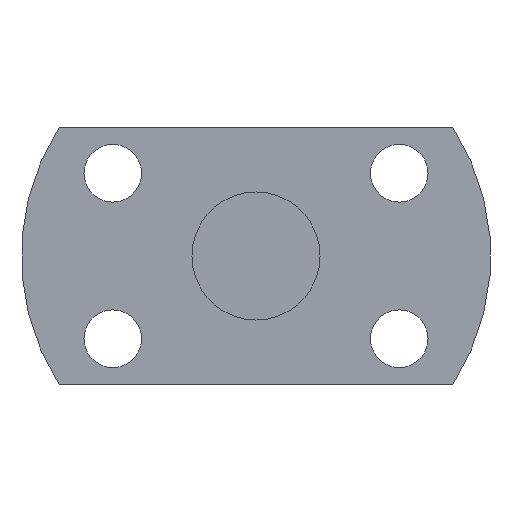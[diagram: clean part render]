
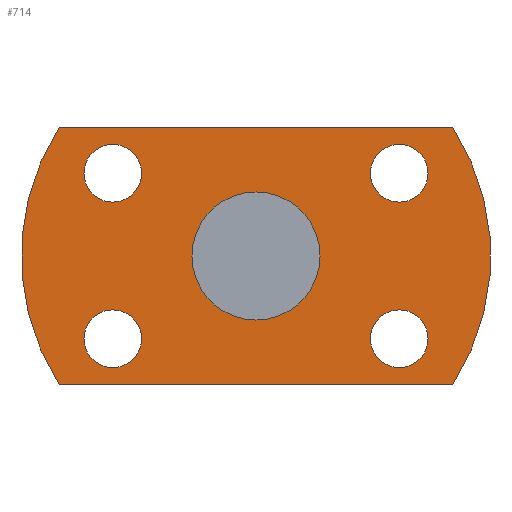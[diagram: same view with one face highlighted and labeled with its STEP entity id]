
A CAD part, left-side view. The second image highlights one B-rep face of the part: STEP entity #714.
In plain terms, the highlighted planar face has unit normal (-1, 0, 0).
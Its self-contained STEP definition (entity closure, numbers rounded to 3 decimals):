
#230=CARTESIAN_POINT('',(135.0,13.423,-5.05));
#231=VERTEX_POINT('',#230);
#232=CARTESIAN_POINT('',(135.0,13.423,-7.75));
#233=DIRECTION('',(1.0,0.0,0.0));
#234=DIRECTION('',(0.0,0.0,1.0));
#235=AXIS2_PLACEMENT_3D('',#232,#233,#234);
#236=CIRCLE('',#235,2.7);
#237=EDGE_CURVE('',#231,#231,#236,.T.);
#279=CARTESIAN_POINT('',(135.0,-13.423,10.45));
#280=VERTEX_POINT('',#279);
#281=CARTESIAN_POINT('',(135.0,-13.423,7.75));
#282=DIRECTION('',(1.0,0.0,0.0));
#283=DIRECTION('',(0.0,0.0,1.0));
#284=AXIS2_PLACEMENT_3D('',#281,#282,#283);
#285=CIRCLE('',#284,2.7);
#286=EDGE_CURVE('',#280,#280,#285,.T.);
#328=CARTESIAN_POINT('',(135.0,-13.423,-5.05));
#329=VERTEX_POINT('',#328);
#330=CARTESIAN_POINT('',(135.0,-13.423,-7.75));
#331=DIRECTION('',(1.0,0.0,0.0));
#332=DIRECTION('',(0.0,0.0,1.0));
#333=AXIS2_PLACEMENT_3D('',#330,#331,#332);
#334=CIRCLE('',#333,2.7);
#335=EDGE_CURVE('',#329,#329,#334,.T.);
#377=CARTESIAN_POINT('',(135.0,13.423,10.45));
#378=VERTEX_POINT('',#377);
#379=CARTESIAN_POINT('',(135.0,13.423,7.75));
#380=DIRECTION('',(1.0,0.0,0.0));
#381=DIRECTION('',(0.0,0.0,1.0));
#382=AXIS2_PLACEMENT_3D('',#379,#380,#381);
#383=CIRCLE('',#382,2.7);
#384=EDGE_CURVE('',#378,#378,#383,.T.);
#548=CARTESIAN_POINT('',(135.0,-18.439,-12.));
#549=VERTEX_POINT('',#548);
#556=CARTESIAN_POINT('',(135.0,18.439,-12.));
#557=VERTEX_POINT('',#556);
#558=CARTESIAN_POINT('',(135.0,18.439,-12.));
#559=DIRECTION('',(0.0,-1.0,0.0));
#560=VECTOR('',#559,36.878);
#561=LINE('',#558,#560);
#562=EDGE_CURVE('',#557,#549,#561,.T.);
#579=CARTESIAN_POINT('',(135.0,-18.439,12.));
#580=VERTEX_POINT('',#579);
#587=CARTESIAN_POINT('',(135.0,0.0,0.0));
#588=DIRECTION('',(-1.0,0.0,0.0));
#589=DIRECTION('',(0.0,0.0,1.0));
#590=AXIS2_PLACEMENT_3D('',#587,#588,#589);
#591=CIRCLE('',#590,22.0);
#592=EDGE_CURVE('',#549,#580,#591,.T.);
#604=CARTESIAN_POINT('',(135.0,18.439,12.));
#605=VERTEX_POINT('',#604);
#612=CARTESIAN_POINT('',(135.0,-18.439,12.));
#613=DIRECTION('',(0.0,1.0,0.0));
#614=VECTOR('',#613,36.878);
#615=LINE('',#612,#614);
#616=EDGE_CURVE('',#580,#605,#615,.T.);
#629=CARTESIAN_POINT('',(135.0,0.0,0.0));
#630=DIRECTION('',(-1.0,0.0,0.0));
#631=DIRECTION('',(0.0,0.0,1.0));
#632=AXIS2_PLACEMENT_3D('',#629,#630,#631);
#633=CIRCLE('',#632,22.0);
#634=EDGE_CURVE('',#605,#557,#633,.T.);
#680=CARTESIAN_POINT('',(135.0,0.0,8.5));
#681=DIRECTION('',(-1.0,0.0,0.0));
#682=DIRECTION('',(0.0,0.0,1.0));
#683=AXIS2_PLACEMENT_3D('',#680,#681,#682);
#684=PLANE('',#683);
#685=ORIENTED_EDGE('',*,*,#634,.T.);
#686=ORIENTED_EDGE('',*,*,#562,.T.);
#687=ORIENTED_EDGE('',*,*,#592,.T.);
#688=ORIENTED_EDGE('',*,*,#616,.T.);
#689=EDGE_LOOP('',(#685,#686,#687,#688));
#690=FACE_OUTER_BOUND('',#689,.T.);
#691=ORIENTED_EDGE('',*,*,#237,.T.);
#692=EDGE_LOOP('',(#691));
#693=FACE_BOUND('',#692,.T.);
#694=ORIENTED_EDGE('',*,*,#286,.T.);
#695=EDGE_LOOP('',(#694));
#696=FACE_BOUND('',#695,.T.);
#697=ORIENTED_EDGE('',*,*,#335,.T.);
#698=EDGE_LOOP('',(#697));
#699=FACE_BOUND('',#698,.T.);
#700=ORIENTED_EDGE('',*,*,#384,.T.);
#701=EDGE_LOOP('',(#700));
#702=FACE_BOUND('',#701,.T.);
#703=CARTESIAN_POINT('',(135.0,0.0,6.));
#704=VERTEX_POINT('',#703);
#705=CARTESIAN_POINT('',(135.0,0.0,0.0));
#706=DIRECTION('',(-1.0,0.0,0.0));
#707=DIRECTION('',(0.0,0.0,1.0));
#708=AXIS2_PLACEMENT_3D('',#705,#706,#707);
#709=CIRCLE('',#708,6.);
#710=EDGE_CURVE('',#704,#704,#709,.T.);
#711=ORIENTED_EDGE('',*,*,#710,.F.);
#712=EDGE_LOOP('',(#711));
#713=FACE_BOUND('',#712,.T.);
#714=ADVANCED_FACE('',(#690,#693,#696,#699,#702,#713),#684,.T.);
